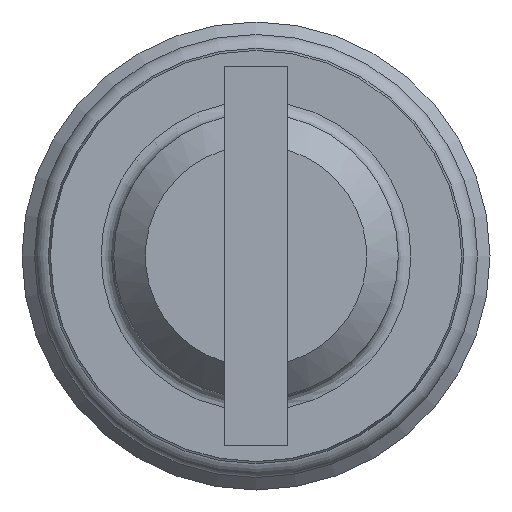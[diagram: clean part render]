
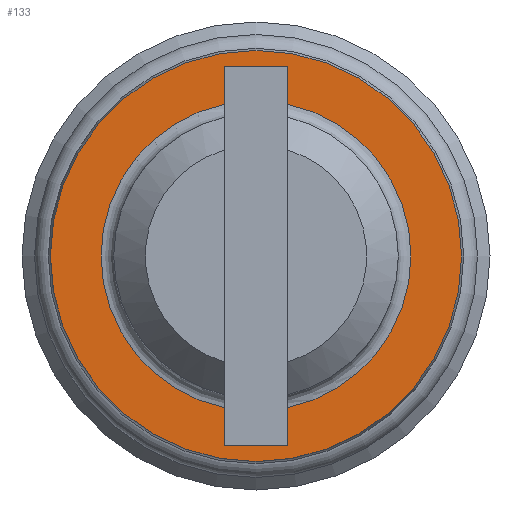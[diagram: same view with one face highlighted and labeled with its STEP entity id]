
A CAD part, left-side view. The second image highlights one B-rep face of the part: STEP entity #133.
In plain terms, the highlighted planar face has unit normal (-1, 0, 0).
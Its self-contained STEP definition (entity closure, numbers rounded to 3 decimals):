
#133 = ADVANCED_FACE( '', ( #284, #285 ), #286, .F. );
#284 = FACE_OUTER_BOUND( '', #449, .T. );
#285 = FACE_BOUND( '', #450, .T. );
#286 = PLANE( '', #451 );
#449 = EDGE_LOOP( '', ( #761 ) );
#450 = EDGE_LOOP( '', ( #762, #763, #764, #765, #766, #767, #768, #769 ) );
#451 = AXIS2_PLACEMENT_3D( '', #770, #771, #772 );
#761 = ORIENTED_EDGE( '', *, *, #929, .F. );
#762 = ORIENTED_EDGE( '', *, *, #951, .T. );
#763 = ORIENTED_EDGE( '', *, *, #974, .T. );
#764 = ORIENTED_EDGE( '', *, *, #954, .T. );
#765 = ORIENTED_EDGE( '', *, *, #1025, .T. );
#766 = ORIENTED_EDGE( '', *, *, #961, .T. );
#767 = ORIENTED_EDGE( '', *, *, #1026, .T. );
#768 = ORIENTED_EDGE( '', *, *, #964, .T. );
#769 = ORIENTED_EDGE( '', *, *, #972, .T. );
#770 = CARTESIAN_POINT( '', ( 0., 0., 0. ) );
#771 = DIRECTION( '', ( 1., 0., 0. ) );
#772 = DIRECTION( '', ( 0., 0., -1. ) );
#929 = EDGE_CURVE( '', #1103, #1103, #1104, .T. );
#951 = EDGE_CURVE( '', #1139, #1137, #1140, .T. );
#954 = EDGE_CURVE( '', #1143, #1144, #1145, .T. );
#961 = EDGE_CURVE( '', #1157, #1155, #1158, .T. );
#964 = EDGE_CURVE( '', #1161, #1162, #1163, .T. );
#972 = EDGE_CURVE( '', #1162, #1139, #1175, .T. );
#974 = EDGE_CURVE( '', #1137, #1143, #1177, .T. );
#1025 = EDGE_CURVE( '', #1144, #1157, #1248, .T. );
#1026 = EDGE_CURVE( '', #1155, #1161, #1249, .T. );
#1103 = VERTEX_POINT( '', #1345 );
#1104 = CIRCLE( '', #1346, 3.25 );
#1137 = VERTEX_POINT( '', #1386 );
#1139 = VERTEX_POINT( '', #1393 );
#1140 = CIRCLE( '', #1394, 2.45 );
#1143 = VERTEX_POINT( '', #1402 );
#1144 = VERTEX_POINT( '', #1403 );
#1145 = LINE( '', #1404, #1405 );
#1155 = VERTEX_POINT( '', #1418 );
#1157 = VERTEX_POINT( '', #1425 );
#1158 = CIRCLE( '', #1426, 2.45 );
#1161 = VERTEX_POINT( '', #1434 );
#1162 = VERTEX_POINT( '', #1435 );
#1163 = LINE( '', #1436, #1437 );
#1175 = LINE( '', #1459, #1460 );
#1177 = LINE( '', #1463, #1464 );
#1248 = LINE( '', #1574, #1575 );
#1249 = LINE( '', #1576, #1577 );
#1345 = CARTESIAN_POINT( '', ( 0., 0., -3.25 ) );
#1346 = AXIS2_PLACEMENT_3D( '', #1649, #1650, #1651 );
#1386 = CARTESIAN_POINT( '', ( 0., -0.5, -2.398 ) );
#1393 = CARTESIAN_POINT( '', ( 0., -0.5, 2.398 ) );
#1394 = AXIS2_PLACEMENT_3D( '', #1680, #1681, #1682 );
#1402 = CARTESIAN_POINT( '', ( 0., -0.5, -3. ) );
#1403 = CARTESIAN_POINT( '', ( 0., 0.5, -3. ) );
#1404 = CARTESIAN_POINT( '', ( 0., -0.5, -3. ) );
#1405 = VECTOR( '', #1683, 1000. );
#1418 = CARTESIAN_POINT( '', ( 0., 0.5, 2.398 ) );
#1425 = CARTESIAN_POINT( '', ( 0., 0.5, -2.398 ) );
#1426 = AXIS2_PLACEMENT_3D( '', #1690, #1691, #1692 );
#1434 = CARTESIAN_POINT( '', ( 0., 0.5, 3. ) );
#1435 = CARTESIAN_POINT( '', ( 0., -0.5, 3. ) );
#1436 = CARTESIAN_POINT( '', ( 0., 0.5, 3. ) );
#1437 = VECTOR( '', #1693, 1000. );
#1459 = CARTESIAN_POINT( '', ( 0., -0.5, 3. ) );
#1460 = VECTOR( '', #1698, 1000. );
#1463 = CARTESIAN_POINT( '', ( 0., -0.5, 3. ) );
#1464 = VECTOR( '', #1700, 1000. );
#1574 = CARTESIAN_POINT( '', ( 0., 0.5, -3. ) );
#1575 = VECTOR( '', #1753, 1000. );
#1576 = CARTESIAN_POINT( '', ( 0., 0.5, -3. ) );
#1577 = VECTOR( '', #1754, 1000. );
#1649 = CARTESIAN_POINT( '', ( 0., 0., 0. ) );
#1650 = DIRECTION( '', ( 1., 0., 0. ) );
#1651 = DIRECTION( '', ( 0., 0., -1. ) );
#1680 = CARTESIAN_POINT( '', ( 0., 0., 0. ) );
#1681 = DIRECTION( '', ( 1., 0., 0. ) );
#1682 = DIRECTION( '', ( 0., 0., -1. ) );
#1683 = DIRECTION( '', ( 0., 1., 0. ) );
#1690 = CARTESIAN_POINT( '', ( 0., 0., 0. ) );
#1691 = DIRECTION( '', ( 1., 0., 0. ) );
#1692 = DIRECTION( '', ( 0., 0., -1. ) );
#1693 = DIRECTION( '', ( 0., -1., 0. ) );
#1698 = DIRECTION( '', ( 0., 0., -1. ) );
#1700 = DIRECTION( '', ( 0., 0., -1. ) );
#1753 = DIRECTION( '', ( 0., 0., 1. ) );
#1754 = DIRECTION( '', ( 0., 0., 1. ) );
